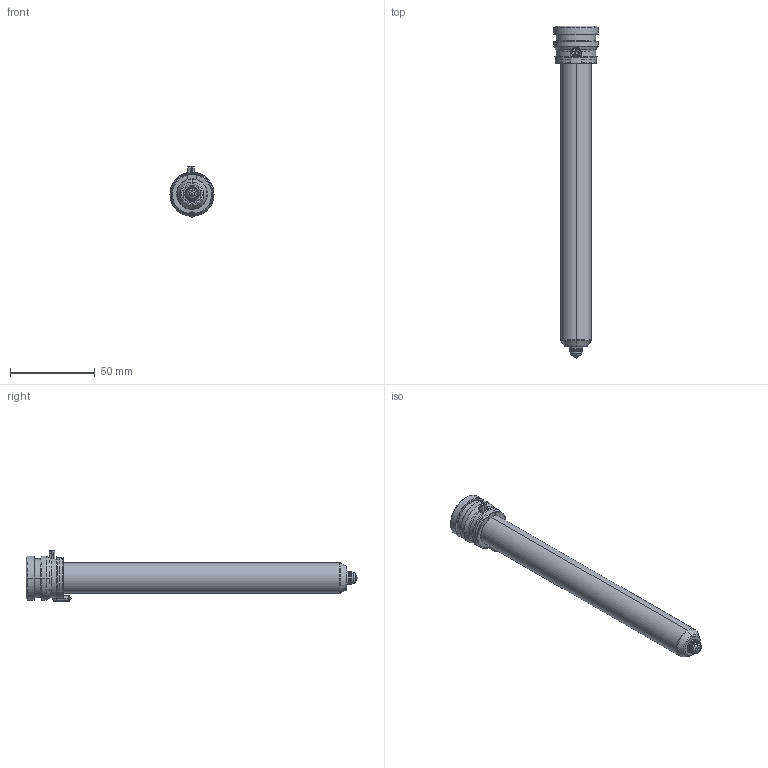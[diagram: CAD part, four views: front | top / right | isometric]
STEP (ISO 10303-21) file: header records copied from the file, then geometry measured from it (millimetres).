
FILE_DESCRIPTION((''),'2;1');
FILE_NAME('TH18177_5-A-1B15-PK-JG','2023-12-14T',('umhib'),('Thermoplay S.p.A.'),'PRO/ENGINEER BY PARAMETRIC TECHNOLOGY CORPORATION, 2017170','PRO/ENGINEER BY PARAMETRIC TECHNOLOGY CORPORATION, 2017170','');
FILE_SCHEMA(('CONFIG_CONTROL_DESIGN'));
Length unit declared in the file: millimetre
Products named in the file (1): TH18177_5-A-1B15-PK-JG
Bounding box: 26 x 195.5 x 29.5 mm (x, y, z)
Volume: 38549.6 mm3; surface area: 28043.9 mm2
Topology: 1 solids, 2 shells, 398 faces, 1036 edges, 643 vertices
Faces by surface type: cylinder 151, plane 85, cone 68, torus 56, bspline 24, sphere 12, extrusion 2
Entity records: 18086 total; most frequent: CARTESIAN_POINT 6121, ORIENTED_EDGE 2048, DIRECTION 2031, EDGE_CURVE 1026, AXIS2_PLACEMENT_3D 815, VERTEX_POINT 643, CIRCLE 442, EDGE_LOOP 418
